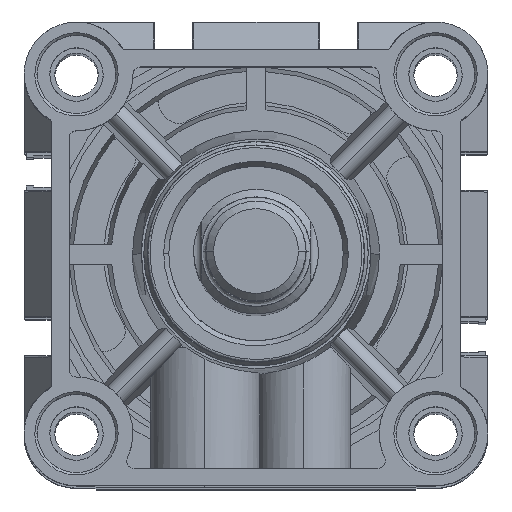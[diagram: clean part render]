
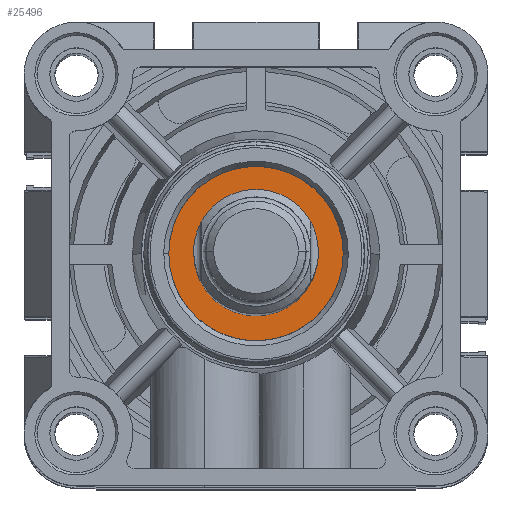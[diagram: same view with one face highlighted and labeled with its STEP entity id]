
A CAD part, top view. The second image highlights one B-rep face of the part: STEP entity #25496.
In plain terms, the highlighted planar face has unit normal (0, 0, 1).
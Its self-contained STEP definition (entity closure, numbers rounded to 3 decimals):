
#870 = ORIENTED_EDGE ( 'NONE', *, *, #14599, .F. ) ;
#2170 = B_SPLINE_CURVE_WITH_KNOTS ( 'NONE', 3,
 ( #2467, #2536, #2883, #2982, #3076, #3154, #3197, #3334, #3372, #3441, #3472, #3512, #3548, #3583, #3664, #3724, #4022, #4252, #4447, #4539, #4648, #4755, #4790, #4847, #4883, #4944, #5079, #5192, #5402, #5500, #5569, #5600, #5665, #5708 ),
 .UNSPECIFIED., .F., .F.,
 ( 4, 2, 2, 2, 2, 2, 2, 2, 2, 2, 2, 2, 2, 2, 2, 2, 4 ),
 ( 0., 0.062, 0.125, 0.187, 0.25, 0.312, 0.375, 0.437, 0.5, 0.562, 0.625, 0.687, 0.75, 0.812, 0.875, 0.937, 1. ),
 .UNSPECIFIED. ) ;
#2467 = CARTESIAN_POINT ( 'NONE',  ( 58.488, 41., 69. ) ) ;
#2536 = CARTESIAN_POINT ( 'NONE',  ( 58.488, 39.855, 69. ) ) ;
#2883 = CARTESIAN_POINT ( 'NONE',  ( 58.376, 38.711, 69. ) ) ;
#2982 = CARTESIAN_POINT ( 'NONE',  ( 57.929, 36.466, 69. ) ) ;
#3076 = CARTESIAN_POINT ( 'NONE',  ( 57.595, 35.365, 69. ) ) ;
#3154 = CARTESIAN_POINT ( 'NONE',  ( 56.719, 33.25, 69. ) ) ;
#3197 = CARTESIAN_POINT ( 'NONE',  ( 56.177, 32.236, 69. ) ) ;
#3334 = CARTESIAN_POINT ( 'NONE',  ( 54.905, 30.332, 69. ) ) ;
#3372 = CARTESIAN_POINT ( 'NONE',  ( 54.175, 29.443, 69. ) ) ;
#3441 = CARTESIAN_POINT ( 'NONE',  ( 52.557, 27.825, 69. ) ) ;
#3472 = CARTESIAN_POINT ( 'NONE',  ( 51.668, 27.095, 69. ) ) ;
#3512 = CARTESIAN_POINT ( 'NONE',  ( 49.764, 25.823, 69. ) ) ;
#3548 = CARTESIAN_POINT ( 'NONE',  ( 48.75, 25.281, 69. ) ) ;
#3583 = CARTESIAN_POINT ( 'NONE',  ( 46.635, 24.405, 69. ) ) ;
#3664 = CARTESIAN_POINT ( 'NONE',  ( 45.534, 24.071, 69. ) ) ;
#3724 = CARTESIAN_POINT ( 'NONE',  ( 43.289, 23.624, 69. ) ) ;
#4022 = CARTESIAN_POINT ( 'NONE',  ( 42.145, 23.512, 69. ) ) ;
#4252 = CARTESIAN_POINT ( 'NONE',  ( 39.855, 23.512, 69. ) ) ;
#4447 = CARTESIAN_POINT ( 'NONE',  ( 38.711, 23.624, 69. ) ) ;
#4464 = EDGE_CURVE ( 'NONE', #26989, #21084, #11935, .T. ) ;
#4539 = CARTESIAN_POINT ( 'NONE',  ( 36.466, 24.071, 69. ) ) ;
#4648 = CARTESIAN_POINT ( 'NONE',  ( 35.365, 24.405, 69. ) ) ;
#4755 = CARTESIAN_POINT ( 'NONE',  ( 33.25, 25.281, 69. ) ) ;
#4790 = CARTESIAN_POINT ( 'NONE',  ( 32.236, 25.823, 69. ) ) ;
#4847 = CARTESIAN_POINT ( 'NONE',  ( 30.332, 27.095, 69. ) ) ;
#4883 = CARTESIAN_POINT ( 'NONE',  ( 29.443, 27.825, 69. ) ) ;
#4944 = CARTESIAN_POINT ( 'NONE',  ( 27.825, 29.443, 69. ) ) ;
#5079 = CARTESIAN_POINT ( 'NONE',  ( 27.095, 30.332, 69. ) ) ;
#5192 = CARTESIAN_POINT ( 'NONE',  ( 25.823, 32.236, 69. ) ) ;
#5211 = CARTESIAN_POINT ( 'NONE',  ( 23.512, 42.145, 69. ) ) ;
#5402 = CARTESIAN_POINT ( 'NONE',  ( 25.281, 33.25, 69. ) ) ;
#5500 = CARTESIAN_POINT ( 'NONE',  ( 24.405, 35.365, 69. ) ) ;
#5541 = PLANE ( 'NONE',  #27454 ) ;
#5569 = CARTESIAN_POINT ( 'NONE',  ( 24.071, 36.466, 69. ) ) ;
#5600 = CARTESIAN_POINT ( 'NONE',  ( 23.624, 38.711, 69. ) ) ;
#5614 = DIRECTION ( 'NONE',  ( 0., 0., 1. ) ) ;
#5665 = CARTESIAN_POINT ( 'NONE',  ( 23.512, 39.855, 69. ) ) ;
#5708 = CARTESIAN_POINT ( 'NONE',  ( 23.512, 41., 69. ) ) ;
#5750 = DIRECTION ( 'NONE',  ( 1., 0., 0. ) ) ;
#6674 = CARTESIAN_POINT ( 'NONE',  ( 23.624, 43.289, 69. ) ) ;
#6729 = CARTESIAN_POINT ( 'NONE',  ( 41., 41., 69. ) ) ;
#6994 = CARTESIAN_POINT ( 'NONE',  ( 23.512, 41., 69. ) ) ;
#7029 = CARTESIAN_POINT ( 'NONE',  ( 24.071, 45.534, 69. ) ) ;
#7054 = DIRECTION ( 'NONE',  ( 0., 0., 1. ) ) ;
#7090 = CARTESIAN_POINT ( 'NONE',  ( 24.405, 46.635, 69. ) ) ;
#7122 = CARTESIAN_POINT ( 'NONE',  ( 25.281, 48.75, 69. ) ) ;
#7156 = DIRECTION ( 'NONE',  ( 1., 0., 0. ) ) ;
#7197 = CARTESIAN_POINT ( 'NONE',  ( 25.823, 49.764, 69. ) ) ;
#7231 = CARTESIAN_POINT ( 'NONE',  ( 27.095, 51.668, 69. ) ) ;
#7300 = CARTESIAN_POINT ( 'NONE',  ( 27.825, 52.557, 69. ) ) ;
#7394 = CARTESIAN_POINT ( 'NONE',  ( 29.443, 54.175, 69. ) ) ;
#7491 = CARTESIAN_POINT ( 'NONE',  ( 30.332, 54.905, 69. ) ) ;
#7590 = CARTESIAN_POINT ( 'NONE',  ( 32.236, 56.177, 69. ) ) ;
#7629 = CARTESIAN_POINT ( 'NONE',  ( 33.25, 56.719, 69. ) ) ;
#7703 = CARTESIAN_POINT ( 'NONE',  ( 35.365, 57.595, 69. ) ) ;
#7796 = CARTESIAN_POINT ( 'NONE',  ( 36.466, 57.929, 69. ) ) ;
#7890 = CARTESIAN_POINT ( 'NONE',  ( 38.711, 58.376, 69. ) ) ;
#8151 = CARTESIAN_POINT ( 'NONE',  ( 39.855, 58.488, 69. ) ) ;
#8418 = CARTESIAN_POINT ( 'NONE',  ( 42.145, 58.488, 69. ) ) ;
#8513 = CARTESIAN_POINT ( 'NONE',  ( 43.289, 58.376, 69. ) ) ;
#8988 = CARTESIAN_POINT ( 'NONE',  ( 45.534, 57.929, 69. ) ) ;
#9021 = CARTESIAN_POINT ( 'NONE',  ( 46.635, 57.595, 69. ) ) ;
#9251 = CARTESIAN_POINT ( 'NONE',  ( 48.75, 56.719, 69. ) ) ;
#9284 = CARTESIAN_POINT ( 'NONE',  ( 49.764, 56.177, 69. ) ) ;
#9355 = CARTESIAN_POINT ( 'NONE',  ( 51.668, 54.905, 69. ) ) ;
#9466 = CARTESIAN_POINT ( 'NONE',  ( 52.557, 54.175, 69. ) ) ;
#9549 = CARTESIAN_POINT ( 'NONE',  ( 54.175, 52.557, 69. ) ) ;
#9591 = EDGE_CURVE ( 'NONE', #21084, #26989, #27414, .T. ) ;
#9640 = CARTESIAN_POINT ( 'NONE',  ( 54.905, 51.668, 69. ) ) ;
#9770 = CARTESIAN_POINT ( 'NONE',  ( 56.177, 49.764, 69. ) ) ;
#9910 = CARTESIAN_POINT ( 'NONE',  ( 56.719, 48.75, 69. ) ) ;
#9943 = CARTESIAN_POINT ( 'NONE',  ( 57.595, 46.635, 69. ) ) ;
#10019 = CARTESIAN_POINT ( 'NONE',  ( 57.929, 45.534, 69. ) ) ;
#10164 = ORIENTED_EDGE ( 'NONE', *, *, #4464, .F. ) ;
#10195 = CARTESIAN_POINT ( 'NONE',  ( 58.376, 43.289, 69. ) ) ;
#10332 = CARTESIAN_POINT ( 'NONE',  ( 58.488, 41., 69. ) ) ;
#10435 = CARTESIAN_POINT ( 'NONE',  ( 58.488, 42.145, 69. ) ) ;
#11935 = CIRCLE ( 'NONE', #15586, 12.5 ) ;
#12410 = ORIENTED_EDGE ( 'NONE', *, *, #9591, .F. ) ;
#13568 = CARTESIAN_POINT ( 'NONE',  ( 53.5, 41., 69. ) ) ;
#14345 = AXIS2_PLACEMENT_3D ( 'NONE', #6729, #7054, #7156 ) ;
#14599 = EDGE_CURVE ( 'NONE', #22403, #17514, #25752, .T. ) ;
#15586 = AXIS2_PLACEMENT_3D ( 'NONE', #24752, #24855, #24909 ) ;
#17314 = CARTESIAN_POINT ( 'NONE',  ( 28.5, 41., 69. ) ) ;
#17514 = VERTEX_POINT ( 'NONE', #20444 ) ;
#20146 = EDGE_LOOP ( 'NONE', ( #29156, #870 ) ) ;
#20444 = CARTESIAN_POINT ( 'NONE',  ( 58.488, 41., 69. ) ) ;
#20735 = EDGE_CURVE ( 'NONE', #17514, #22403, #2170, .T. ) ;
#21084 = VERTEX_POINT ( 'NONE', #17314 ) ;
#21401 = FACE_OUTER_BOUND ( 'NONE', #20146, .T. ) ;
#22403 = VERTEX_POINT ( 'NONE', #30309 ) ;
#24752 = CARTESIAN_POINT ( 'NONE',  ( 41., 41., 69. ) ) ;
#24855 = DIRECTION ( 'NONE',  ( 0., 0., 1. ) ) ;
#24909 = DIRECTION ( 'NONE',  ( 1., 0., 0. ) ) ;
#25037 = EDGE_LOOP ( 'NONE', ( #10164, #12410 ) ) ;
#25496 = ADVANCED_FACE ( 'NONE', ( #21401, #26949 ), #5541, .T. ) ;
#25752 = B_SPLINE_CURVE_WITH_KNOTS ( 'NONE', 3,
 ( #6994, #5211, #6674, #7029, #7090, #7122, #7197, #7231, #7300, #7394, #7491, #7590, #7629, #7703, #7796, #7890, #8151, #8418, #8513, #8988, #9021, #9251, #9284, #9355, #9466, #9549, #9640, #9770, #9910, #9943, #10019, #10195, #10435, #10332 ),
 .UNSPECIFIED., .F., .F.,
 ( 4, 2, 2, 2, 2, 2, 2, 2, 2, 2, 2, 2, 2, 2, 2, 2, 4 ),
 ( 0., 0.062, 0.125, 0.187, 0.25, 0.312, 0.375, 0.437, 0.5, 0.562, 0.625, 0.687, 0.75, 0.812, 0.875, 0.938, 1. ),
 .UNSPECIFIED. ) ;
#26746 = CARTESIAN_POINT ( 'NONE',  ( 41., 41., 69. ) ) ;
#26949 = FACE_BOUND ( 'NONE', #25037, .T. ) ;
#26989 = VERTEX_POINT ( 'NONE', #13568 ) ;
#27414 = CIRCLE ( 'NONE', #14345, 12.5 ) ;
#27454 = AXIS2_PLACEMENT_3D ( 'NONE', #26746, #5614, #5750 ) ;
#29156 = ORIENTED_EDGE ( 'NONE', *, *, #20735, .F. ) ;
#30309 = CARTESIAN_POINT ( 'NONE',  ( 23.512, 41., 69. ) ) ;
